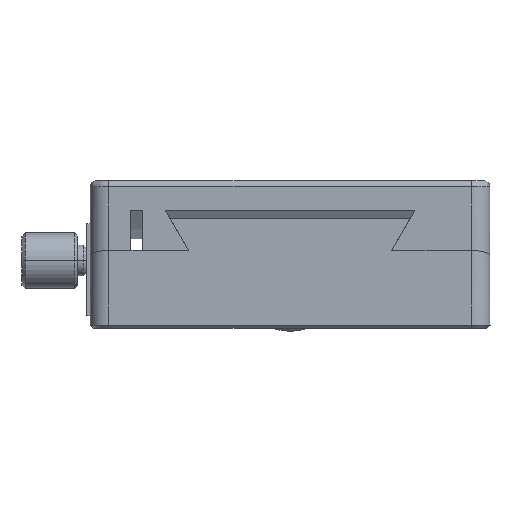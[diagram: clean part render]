
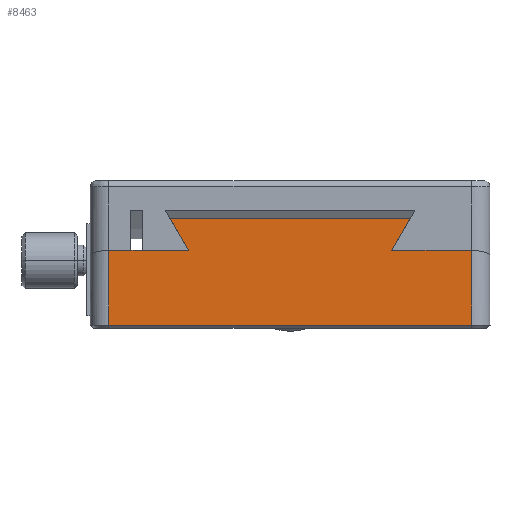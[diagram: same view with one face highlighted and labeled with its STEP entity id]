
A CAD part, left-side view. The second image highlights one B-rep face of the part: STEP entity #8463.
In plain terms, the highlighted planar face has unit normal (-1, 0, 0).
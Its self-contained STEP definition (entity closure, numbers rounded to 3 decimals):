
#114 = LINE ( 'NONE', #16836, #5553 ) ;
#143 = DIRECTION ( 'NONE',  ( 0., 0.5, 0.866 ) ) ;
#292 = VECTOR ( 'NONE', #4480, 1000. ) ;
#354 = DIRECTION ( 'NONE',  ( 0., 0., -1. ) ) ;
#1331 = VERTEX_POINT ( 'NONE', #20064 ) ;
#1798 = DIRECTION ( 'NONE',  ( 0., -1., 0. ) ) ;
#2696 = CARTESIAN_POINT ( 'NONE',  ( -32.5, -32.5, 0.5 ) ) ;
#2981 = DIRECTION ( 'NONE',  ( 0., 0., 1. ) ) ;
#3054 = VERTEX_POINT ( 'NONE', #9586 ) ;
#3425 = VERTEX_POINT ( 'NONE', #14950 ) ;
#3710 = PLANE ( 'NONE',  #22392 ) ;
#4012 = EDGE_LOOP ( 'NONE', ( #15978, #10936, #13622, #22521, #22296, #8744, #8753, #17354 ) ) ;
#4480 = DIRECTION ( 'NONE',  ( 0., -1., 0. ) ) ;
#5240 = VECTOR ( 'NONE', #8489, 1000. ) ;
#5553 = VECTOR ( 'NONE', #143, 1000. ) ;
#5863 = VERTEX_POINT ( 'NONE', #6208 ) ;
#6208 = CARTESIAN_POINT ( 'NONE',  ( -32.5, -19.513, 17.864 ) ) ;
#6825 = VERTEX_POINT ( 'NONE', #11574 ) ;
#6900 = CARTESIAN_POINT ( 'NONE',  ( -32.5, -29.5, 20. ) ) ;
#7045 = CARTESIAN_POINT ( 'NONE',  ( -32.5, 19.513, 17.864 ) ) ;
#8285 = LINE ( 'NONE', #9174, #17116 ) ;
#8463 = ADVANCED_FACE ( 'NONE', ( #23597 ), #3710, .F. ) ;
#8489 = DIRECTION ( 'NONE',  ( 0., 0., -1. ) ) ;
#8609 = VECTOR ( 'NONE', #2981, 1000. ) ;
#8689 = CARTESIAN_POINT ( 'NONE',  ( -32.5, 29.5, 0.5 ) ) ;
#8744 = ORIENTED_EDGE ( 'NONE', *, *, #11576, .F. ) ;
#8753 = ORIENTED_EDGE ( 'NONE', *, *, #16574, .F. ) ;
#9083 = DIRECTION ( 'NONE',  ( 0., -1., 0. ) ) ;
#9174 = CARTESIAN_POINT ( 'NONE',  ( -32.5, -32.5, 12.646 ) ) ;
#9586 = CARTESIAN_POINT ( 'NONE',  ( -32.5, 29.5, 12.646 ) ) ;
#10168 = CARTESIAN_POINT ( 'NONE',  ( -32.5, -32.5, 17.864 ) ) ;
#10936 = ORIENTED_EDGE ( 'NONE', *, *, #17366, .F. ) ;
#11092 = LINE ( 'NONE', #10168, #11676 ) ;
#11126 = DIRECTION ( 'NONE',  ( 1., 0., 0. ) ) ;
#11281 = VECTOR ( 'NONE', #13555, 1000. ) ;
#11284 = CARTESIAN_POINT ( 'NONE',  ( -32.5, -32.5, 20. ) ) ;
#11574 = CARTESIAN_POINT ( 'NONE',  ( -32.5, -29.5, 12.646 ) ) ;
#11576 = EDGE_CURVE ( 'NONE', #1331, #22853, #114, .T. ) ;
#11676 = VECTOR ( 'NONE', #13384, 1000. ) ;
#11694 = EDGE_CURVE ( 'NONE', #5863, #17388, #15276, .T. ) ;
#12299 = LINE ( 'NONE', #12589, #14001 ) ;
#12589 = CARTESIAN_POINT ( 'NONE',  ( -32.5, -32.5, 12.646 ) ) ;
#13384 = DIRECTION ( 'NONE',  ( 0., -1., 0. ) ) ;
#13470 = LINE ( 'NONE', #17762, #8609 ) ;
#13555 = DIRECTION ( 'NONE',  ( 0., 0.5, -0.866 ) ) ;
#13622 = ORIENTED_EDGE ( 'NONE', *, *, #15670, .F. ) ;
#14001 = VECTOR ( 'NONE', #1798, 1000. ) ;
#14280 = LINE ( 'NONE', #2696, #292 ) ;
#14950 = CARTESIAN_POINT ( 'NONE',  ( -32.5, -29.5, 0.5 ) ) ;
#15251 = LINE ( 'NONE', #6900, #5240 ) ;
#15276 = LINE ( 'NONE', #22323, #11281 ) ;
#15620 = EDGE_CURVE ( 'NONE', #16458, #3054, #13470, .T. ) ;
#15670 = EDGE_CURVE ( 'NONE', #17388, #6825, #12299, .T. ) ;
#15978 = ORIENTED_EDGE ( 'NONE', *, *, #16296, .T. ) ;
#16296 = EDGE_CURVE ( 'NONE', #16458, #3425, #14280, .T. ) ;
#16458 = VERTEX_POINT ( 'NONE', #8689 ) ;
#16574 = EDGE_CURVE ( 'NONE', #3054, #1331, #8285, .T. ) ;
#16836 = CARTESIAN_POINT ( 'NONE',  ( -32.5, 16.5, 12.646 ) ) ;
#17116 = VECTOR ( 'NONE', #9083, 1000. ) ;
#17354 = ORIENTED_EDGE ( 'NONE', *, *, #15620, .F. ) ;
#17366 = EDGE_CURVE ( 'NONE', #6825, #3425, #15251, .T. ) ;
#17388 = VERTEX_POINT ( 'NONE', #19499 ) ;
#17762 = CARTESIAN_POINT ( 'NONE',  ( -32.5, 29.5, 20. ) ) ;
#19499 = CARTESIAN_POINT ( 'NONE',  ( -32.5, -16.5, 12.646 ) ) ;
#20064 = CARTESIAN_POINT ( 'NONE',  ( -32.5, 16.5, 12.646 ) ) ;
#22296 = ORIENTED_EDGE ( 'NONE', *, *, #22384, .F. ) ;
#22323 = CARTESIAN_POINT ( 'NONE',  ( -32.5, -19.513, 17.864 ) ) ;
#22384 = EDGE_CURVE ( 'NONE', #22853, #5863, #11092, .T. ) ;
#22392 = AXIS2_PLACEMENT_3D ( 'NONE', #11284, #11126, #354 ) ;
#22521 = ORIENTED_EDGE ( 'NONE', *, *, #11694, .F. ) ;
#22853 = VERTEX_POINT ( 'NONE', #7045 ) ;
#23597 = FACE_OUTER_BOUND ( 'NONE', #4012, .T. ) ;
